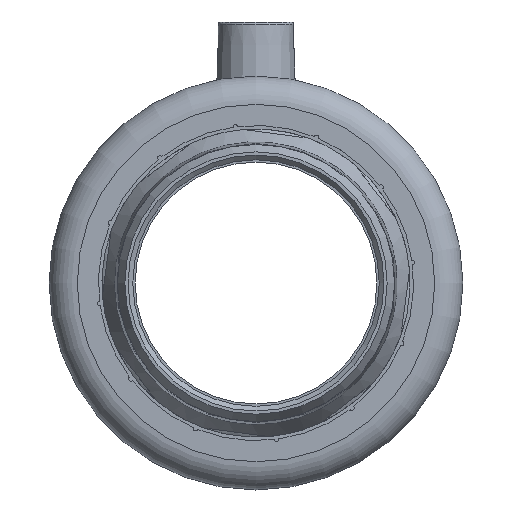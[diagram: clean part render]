
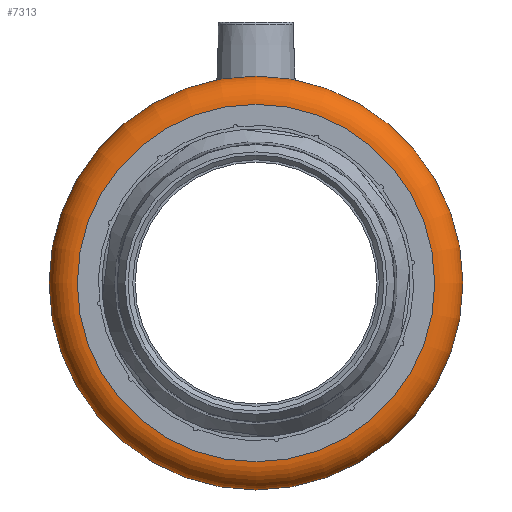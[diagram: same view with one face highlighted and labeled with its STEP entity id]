
A CAD part, left-side view. The second image highlights one B-rep face of the part: STEP entity #7313.
In plain terms, the highlighted toroidal (fillet/blend) face has major radius 38 mm and minor radius 6 mm.
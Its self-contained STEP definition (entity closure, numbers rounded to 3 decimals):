
#858=TOROIDAL_SURFACE('',#9311,38.,6.);
#1048=CIRCLE('',#9310,38.);
#1049=CIRCLE('',#9312,44.);
#2400=ORIENTED_EDGE('',*,*,#4100,.T.);
#2401=ORIENTED_EDGE('',*,*,#4099,.F.);
#4099=EDGE_CURVE('',#5053,#5053,#1048,.T.);
#4100=EDGE_CURVE('',#5054,#5054,#1049,.T.);
#5053=VERTEX_POINT('',#15533);
#5054=VERTEX_POINT('',#15536);
#6225=EDGE_LOOP('',(#2400));
#6226=EDGE_LOOP('',(#2401));
#6739=FACE_BOUND('',#6225,.T.);
#6740=FACE_BOUND('',#6226,.T.);
#7313=ADVANCED_FACE('',(#6739,#6740),#858,.T.);
#9310=AXIS2_PLACEMENT_3D('',#15532,#10643,#10644);
#9311=AXIS2_PLACEMENT_3D('',#15534,#10645,#10646);
#9312=AXIS2_PLACEMENT_3D('',#15535,#10647,#10648);
#10643=DIRECTION('',(-1.,0.,0.));
#10644=DIRECTION('',(0.,0.,1.));
#10645=DIRECTION('',(-1.,0.,0.));
#10646=DIRECTION('',(0.,0.,1.));
#10647=DIRECTION('',(-1.,0.,0.));
#10648=DIRECTION('',(0.,0.,1.));
#15532=CARTESIAN_POINT('',(0.,0.,0.));
#15533=CARTESIAN_POINT('',(0.,0.,38.));
#15534=CARTESIAN_POINT('',(6.,0.,0.));
#15535=CARTESIAN_POINT('',(6.,0.,0.));
#15536=CARTESIAN_POINT('',(6.,0.,44.));
